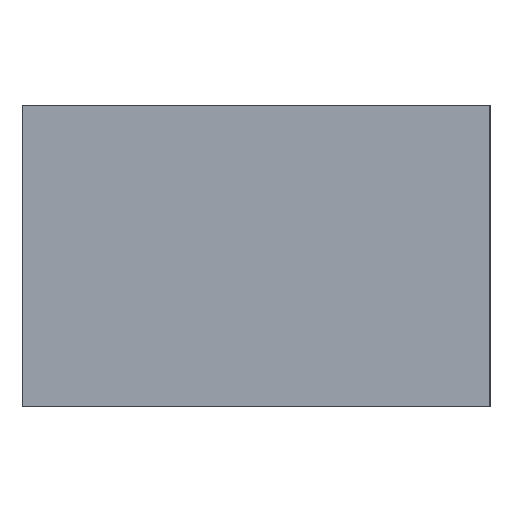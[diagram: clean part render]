
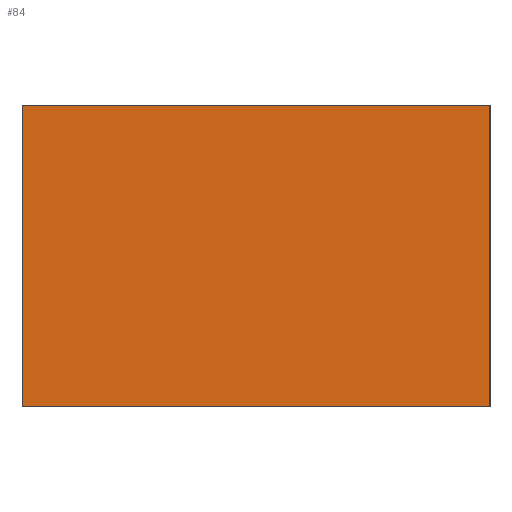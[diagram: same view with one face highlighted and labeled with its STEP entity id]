
A CAD part, left-side view. The second image highlights one B-rep face of the part: STEP entity #84.
In plain terms, the highlighted planar face has unit normal (-1, 0, 0).
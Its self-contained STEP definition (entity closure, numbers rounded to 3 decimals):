
#79=FACE_OUTER_BOUND('',#304,.T.);
#84=ADVANCED_FACE('',(#79),#135,.T.);
#135=PLANE('',#711);
#154=LINE('',#1022,#166);
#156=LINE('',#1034,#168);
#161=LINE('',#1058,#173);
#162=LINE('',#1062,#174);
#166=VECTOR('',#804,1.);
#168=VECTOR('',#816,1.);
#173=VECTOR('',#837,1.);
#174=VECTOR('',#842,1.);
#304=EDGE_LOOP('',(#419,#420,#421,#422));
#419=ORIENTED_EDGE('',*,*,#585,.T.);
#420=ORIENTED_EDGE('',*,*,#603,.T.);
#421=ORIENTED_EDGE('',*,*,#591,.F.);
#422=ORIENTED_EDGE('',*,*,#605,.T.);
#521=VERTEX_POINT('',#1021);
#522=VERTEX_POINT('',#1023);
#527=VERTEX_POINT('',#1035);
#528=VERTEX_POINT('',#1036);
#585=EDGE_CURVE('',#522,#521,#154,.T.);
#591=EDGE_CURVE('',#527,#528,#156,.T.);
#603=EDGE_CURVE('',#521,#528,#161,.T.);
#605=EDGE_CURVE('',#527,#522,#162,.T.);
#711=AXIS2_PLACEMENT_3D('',#1063,#843,#844);
#804=DIRECTION('',(0.,0.,1.));
#816=DIRECTION('',(0.,0.,1.));
#837=DIRECTION('',(0.,1.,0.));
#842=DIRECTION('',(0.,-1.,0.));
#843=DIRECTION('',(-1.,0.,0.));
#844=DIRECTION('',(0.,0.,1.));
#1021=CARTESIAN_POINT('',(-65.,-50.5,0.));
#1022=CARTESIAN_POINT('',(-65.,-50.5,-65.));
#1023=CARTESIAN_POINT('',(-65.,-50.5,-65.));
#1034=CARTESIAN_POINT('',(-65.,50.5,-65.));
#1035=CARTESIAN_POINT('',(-65.,50.5,-65.));
#1036=CARTESIAN_POINT('',(-65.,50.5,0.));
#1058=CARTESIAN_POINT('',(-65.,0.,0.));
#1062=CARTESIAN_POINT('',(-65.,0.,-65.));
#1063=CARTESIAN_POINT('',(-65.,0.,-65.));
